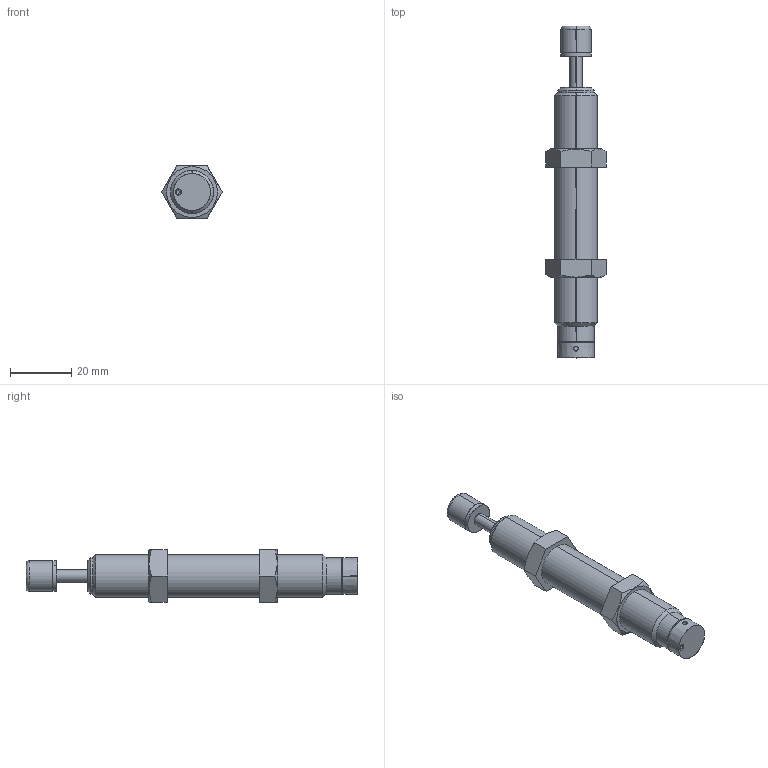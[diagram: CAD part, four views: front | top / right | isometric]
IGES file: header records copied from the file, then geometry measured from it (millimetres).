
Start section: SolidWorks IGES file using analytic representation for surfaces
Bounding box: 19.63 x 108.2 x 17 mm (x, y, z)
Surface area: 6565.3 mm2 (no closed solid volume)
Topology: 0 solids, 0 shells, 77 faces, 1278 edges, 1278 vertices
Faces by surface type: bspline 41, revolution 36
